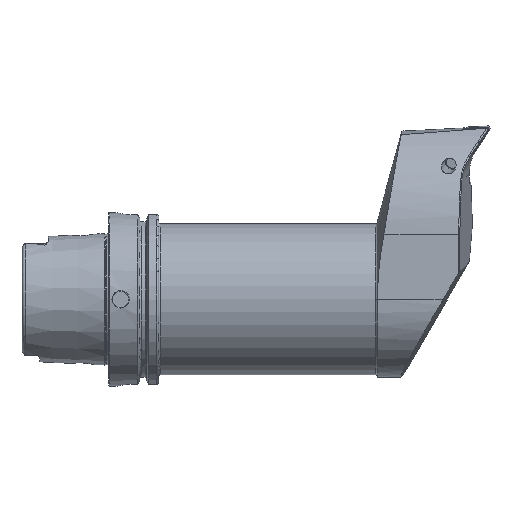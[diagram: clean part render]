
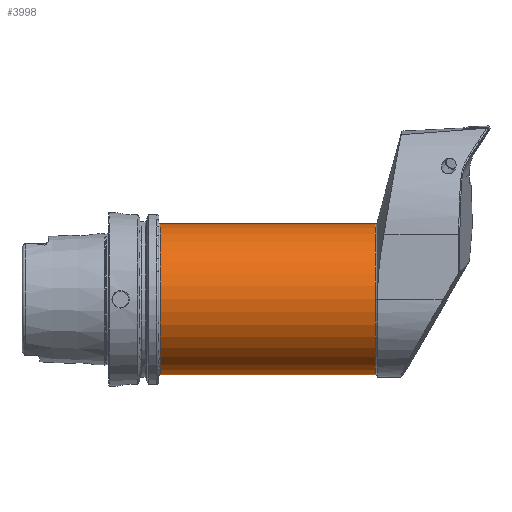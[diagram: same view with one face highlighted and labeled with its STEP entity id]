
A CAD part, front view. The second image highlights one B-rep face of the part: STEP entity #3998.
In plain terms, the highlighted cylindrical face has radius 43.5 mm (diameter 87 mm), a partial arc.
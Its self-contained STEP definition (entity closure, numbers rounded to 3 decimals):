
#89 = DIRECTION ( 'NONE',  ( -1., 0., 0. ) ) ;
#117 = AXIS2_PLACEMENT_3D ( 'NONE', #12690, #13911, #8153 ) ;
#851 = CARTESIAN_POINT ( 'NONE',  ( 29.95, 0., -43.5 ) ) ;
#866 = DIRECTION ( 'NONE',  ( -1., 0., 0. ) ) ;
#1351 = CARTESIAN_POINT ( 'NONE',  ( -49.9, 0., 0. ) ) ;
#1530 = CARTESIAN_POINT ( 'NONE',  ( -49.9, 0., -43.5 ) ) ;
#1560 = VERTEX_POINT ( 'NONE', #2271 ) ;
#2271 = CARTESIAN_POINT ( 'NONE',  ( 153.96, 0., 43.5 ) ) ;
#2447 = DIRECTION ( 'NONE',  ( -1., 0., 0. ) ) ;
#3293 = ORIENTED_EDGE ( 'NONE', *, *, #5856, .F. ) ;
#3530 = DIRECTION ( 'NONE',  ( -1., 0., 0. ) ) ;
#3673 = FACE_OUTER_BOUND ( 'NONE', #12624, .T. ) ;
#3981 = AXIS2_PLACEMENT_3D ( 'NONE', #7811, #4155, #8735 ) ;
#3998 = ADVANCED_FACE ( 'NONE', ( #3673 ), #9396, .T. ) ;
#4091 = ORIENTED_EDGE ( 'NONE', *, *, #13974, .T. ) ;
#4134 = EDGE_CURVE ( 'NONE', #1560, #7482, #5470, .T. ) ;
#4155 = DIRECTION ( 'NONE',  ( -1., 0., 0. ) ) ;
#4257 = CARTESIAN_POINT ( 'NONE',  ( 153.96, 0., 0. ) ) ;
#4627 = VERTEX_POINT ( 'NONE', #851 ) ;
#5470 = LINE ( 'NONE', #13964, #8222 ) ;
#5856 = EDGE_CURVE ( 'NONE', #8079, #4627, #11740, .T. ) ;
#6474 = ORIENTED_EDGE ( 'NONE', *, *, #10000, .F. ) ;
#6483 = AXIS2_PLACEMENT_3D ( 'NONE', #4257, #866, #12671 ) ;
#7482 = VERTEX_POINT ( 'NONE', #10438 ) ;
#7595 = ORIENTED_EDGE ( 'NONE', *, *, #4134, .T. ) ;
#7811 = CARTESIAN_POINT ( 'NONE',  ( 153.96, 0., 0. ) ) ;
#7899 = VECTOR ( 'NONE', #89, 1000. ) ;
#7968 = EDGE_CURVE ( 'NONE', #8079, #14754, #11743, .T. ) ;
#8079 = VERTEX_POINT ( 'NONE', #9343 ) ;
#8153 = DIRECTION ( 'NONE',  ( 0., 0., 1. ) ) ;
#8222 = VECTOR ( 'NONE', #2447, 1000. ) ;
#8735 = DIRECTION ( 'NONE',  ( 0., 1., 0. ) ) ;
#9343 = CARTESIAN_POINT ( 'NONE',  ( 153.96, 0., -43.5 ) ) ;
#9396 = CYLINDRICAL_SURFACE ( 'NONE', #10459, 43.5 ) ;
#10000 = EDGE_CURVE ( 'NONE', #4627, #7482, #13408, .T. ) ;
#10438 = CARTESIAN_POINT ( 'NONE',  ( 29.95, 0., 43.5 ) ) ;
#10459 = AXIS2_PLACEMENT_3D ( 'NONE', #1351, #3530, #12785 ) ;
#11740 = LINE ( 'NONE', #1530, #7899 ) ;
#11743 = CIRCLE ( 'NONE', #3981, 43.5 ) ;
#12624 = EDGE_LOOP ( 'NONE', ( #3293, #14209, #4091, #7595, #6474 ) ) ;
#12671 = DIRECTION ( 'NONE',  ( 0., 1., 0. ) ) ;
#12690 = CARTESIAN_POINT ( 'NONE',  ( 29.95, 0., 0. ) ) ;
#12785 = DIRECTION ( 'NONE',  ( 0., 0., 1. ) ) ;
#13408 = CIRCLE ( 'NONE', #117, 43.5 ) ;
#13902 = CARTESIAN_POINT ( 'NONE',  ( 153.96, -43.5, 0. ) ) ;
#13911 = DIRECTION ( 'NONE',  ( -1., 0., 0. ) ) ;
#13964 = CARTESIAN_POINT ( 'NONE',  ( -49.9, 0., 43.5 ) ) ;
#13974 = EDGE_CURVE ( 'NONE', #14754, #1560, #14235, .T. ) ;
#14209 = ORIENTED_EDGE ( 'NONE', *, *, #7968, .T. ) ;
#14235 = CIRCLE ( 'NONE', #6483, 43.5 ) ;
#14754 = VERTEX_POINT ( 'NONE', #13902 ) ;
